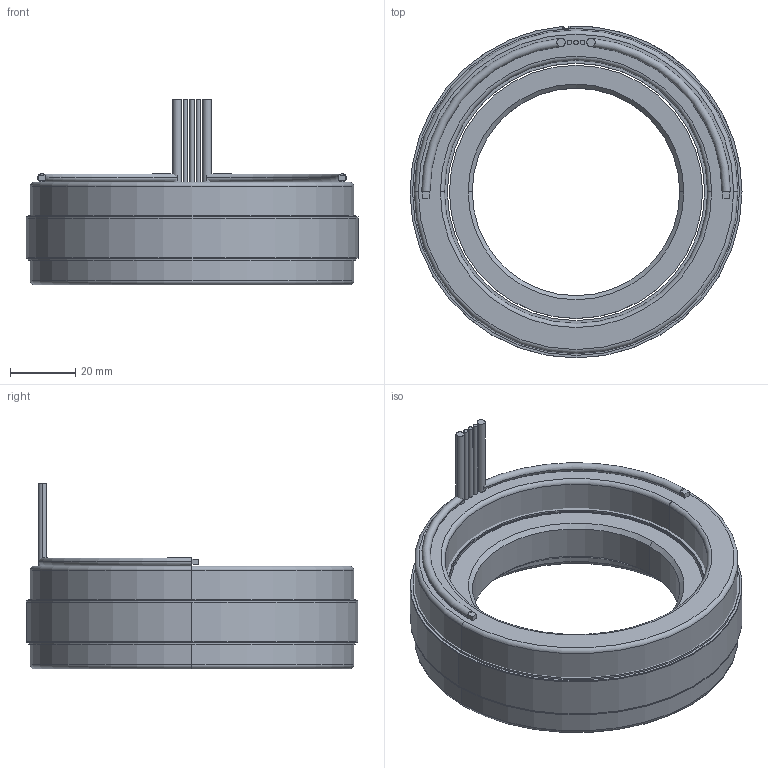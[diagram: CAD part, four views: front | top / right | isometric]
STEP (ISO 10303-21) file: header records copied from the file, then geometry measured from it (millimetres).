
FILE_DESCRIPTION (( 'STEP AP214' ), '1' );
FILE_NAME ('6100339-01.STEP', '2019-10-23T21:16:20', ( '' ), ( '' ), 'SwSTEP 2.0', 'SolidWorks 2016', '' );
FILE_SCHEMA (( 'AUTOMOTIVE_DESIGN' ));
Length unit declared in the file: millimetre
Products named in the file (11): COMP4500542-XX(COIL)_COMP4500542-01(COIL); 4450182-XX_4450182-01; 4150169-XX_4150169-01; 4600555-00; 4250363-XX_4250363-01; 6100339-01; 4400095-00; 4500542-XX_4500542-01
Assembly tree (10 placements, depth 4):
  6100339-01
    4250363-XX_4250363-01
      4150169-XX_4150169-01
    4500542-XX_4500542-01
      4450182-XX_4450182-01
        4450182-XX_4450182-01
        4400095-00
        4400095-00
        4600555-00
        4600555-00
      COMP4500542-XX(COIL)_COMP4500542-01(COIL)
Bounding box: 101.6 x 101.57 x 56.9 mm (x, y, z)
Volume: 146519.4 mm3; surface area: 71886.5 mm2
Topology: 14 solids, 14 shells, 109 faces, 215 edges, 134 vertices
Faces by surface type: cylinder 49, plane 44, torus 12, cone 4
Entity records: 3342 total; most frequent: DIRECTION 603, CARTESIAN_POINT 474, ORIENTED_EDGE 430, AXIS2_PLACEMENT_3D 263, EDGE_CURVE 215, CIRCLE 138, VERTEX_POINT 134, EDGE_LOOP 123
